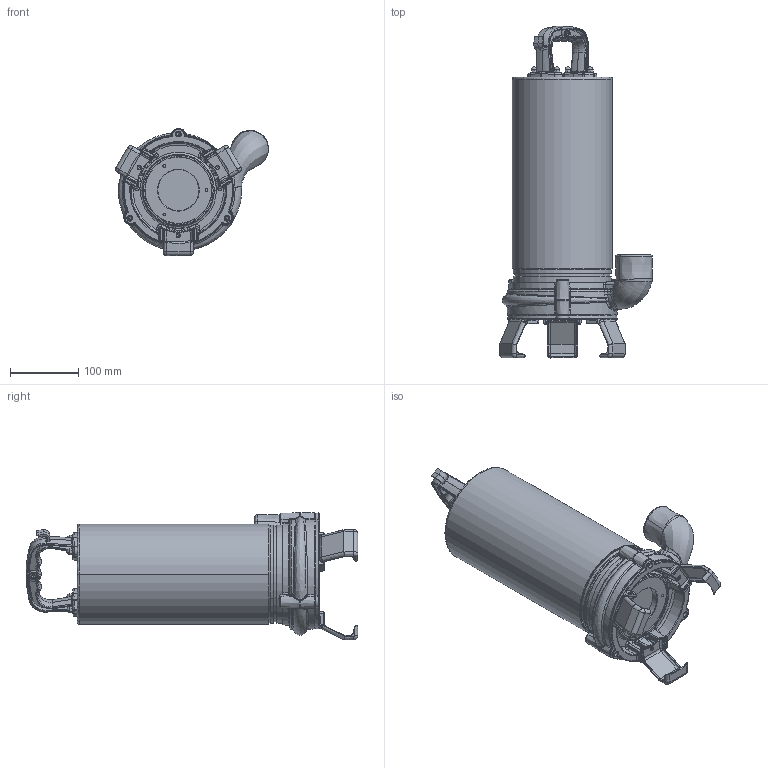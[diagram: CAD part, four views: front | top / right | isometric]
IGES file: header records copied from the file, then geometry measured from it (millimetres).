
Start section:  PTC IGES file: vigicor_150.igs
Global section: file name: vigicor_150.igs; native system: Pro/ENGINEER by Parametric Technology Corporation; preprocessor: 2008150; author: usuari; organization: Unknown; date: 20151022.164821; units: millimetre
Bounding box: 223.59 x 484.88 x 186.28 mm (x, y, z)
Surface area: 306800 mm2 (no closed solid volume)
Topology: 0 solids, 0 shells, 1296 faces, 6131 edges, 6105 vertices
Faces by surface type: revolution 690, bspline 605, extrusion 1
